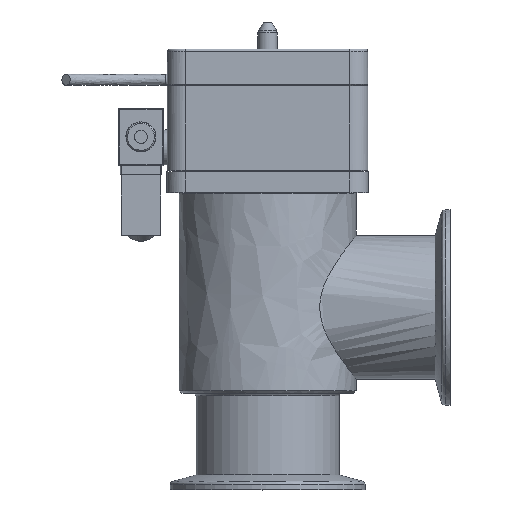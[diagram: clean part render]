
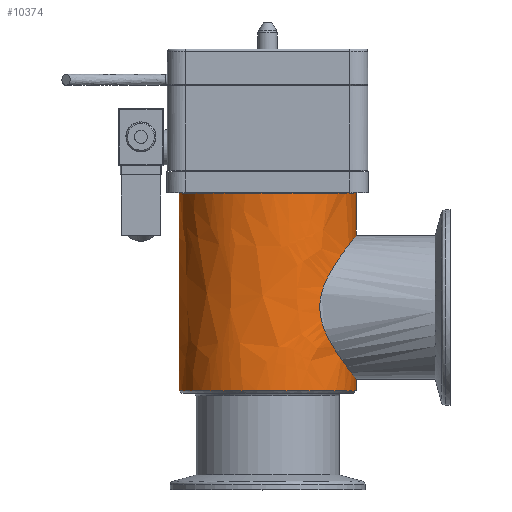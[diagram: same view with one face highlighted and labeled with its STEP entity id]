
A CAD part, top view. The second image highlights one B-rep face of the part: STEP entity #10374.
In plain terms, the highlighted free-form (B-spline) face has degree [2, 1] with [7, 2] control points.
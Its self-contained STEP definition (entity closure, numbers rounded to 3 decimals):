
#9781=CARTESIAN_POINT('V30',(38.,33.95,
   0.0));
#9782=VERTEX_POINT('V30',#9781);
#9790=CARTESIAN_POINT('E52',(38.,33.95,
   0.));
#9791=CARTESIAN_POINT('E52',(38.,33.95,
   58.803));
#9792=CARTESIAN_POINT('E52',(38.,-16.975,
   29.402));
#9793=CARTESIAN_POINT('E52',(38.,-67.9,
   0.));
#9794=CARTESIAN_POINT('E52',(38.,-16.975,
   -29.402));
#9795=CARTESIAN_POINT('E52',(38.,33.95,
   -58.803));
#9796=CARTESIAN_POINT('E52',(38.,33.95,
   0.));
#9804=(BOUNDED_CURVE()B_SPLINE_CURVE(2,(#9790,#9791,#9792,#9793,
   #9794,#9795,#9796),.CIRCULAR_ARC.,.T.,.U.)
   B_SPLINE_CURVE_WITH_KNOTS((3,2,2,3),(2.0,50.798,
   99.595,148.393),.UNSPECIFIED.)CURVE()
   GEOMETRIC_REPRESENTATION_ITEM()RATIONAL_B_SPLINE_CURVE((1.0,
   0.5,1.0,0.5,1.0,0.5,1.0)
   )REPRESENTATION_ITEM('E52'));
#9805=EDGE_CURVE('E52',#9782,#9782,#9804,.T.);
#10246=CARTESIAN_POINT('V2',(113.8,33.95,
   0.0));
#10247=VERTEX_POINT('V2',#10246);
#10255=CARTESIAN_POINT('E2',(113.8,33.95,
   0.0));
#10256=CARTESIAN_POINT('E2',(113.8,33.95,
   -58.803));
#10257=CARTESIAN_POINT('E2',(113.8,-16.975,
   -29.402));
#10258=CARTESIAN_POINT('E2',(113.8,-67.9,
   0.));
#10259=CARTESIAN_POINT('E2',(113.8,-16.975,
   29.402));
#10260=CARTESIAN_POINT('E2',(113.8,33.95,
   58.803));
#10261=CARTESIAN_POINT('E2',(113.8,33.95,
   0.0));
#10269=(BOUNDED_CURVE()B_SPLINE_CURVE(2,(#10255,#10256,#10257,
   #10258,#10259,#10260,#10261),.CIRCULAR_ARC.,.T.,.U.)
   B_SPLINE_CURVE_WITH_KNOTS((3,2,2,3),(0.0,1.531,
   3.063,4.594),.UNSPECIFIED.)CURVE()
   GEOMETRIC_REPRESENTATION_ITEM()RATIONAL_B_SPLINE_CURVE((1.0,
   0.5,1.0,0.5,1.0,0.5,1.0)
   )REPRESENTATION_ITEM('E2'));
#10270=EDGE_CURVE('E2',#10247,#10247,#10269,.T.);
#10275=CARTESIAN_POINT('F23',(37.,33.95,
   0.0));
#10276=CARTESIAN_POINT('F23',(37.,33.95,
   58.803));
#10277=CARTESIAN_POINT('F23',(37.,-16.975,
   29.402));
#10278=CARTESIAN_POINT('F23',(37.,-67.9,
   0.));
#10279=CARTESIAN_POINT('F23',(37.,-16.975,
   -29.402));
#10280=CARTESIAN_POINT('F23',(37.,33.95,
   -58.803));
#10281=CARTESIAN_POINT('F23',(37.,33.95,
   0.0));
#10282=CARTESIAN_POINT('F23',(113.8,33.95,
   0.0));
#10283=CARTESIAN_POINT('F23',(113.8,33.95,
   58.803));
#10284=CARTESIAN_POINT('F23',(113.8,
   -16.975,29.402));
#10285=CARTESIAN_POINT('F23',(113.8,
   -67.9,0.));
#10286=CARTESIAN_POINT('F23',(113.8,
   -16.975,-29.402));
#10287=CARTESIAN_POINT('F23',(113.8,33.95,
   -58.803));
#10288=CARTESIAN_POINT('F23',(113.8,33.95,
   0.0));
#10296=(BOUNDED_SURFACE()B_SPLINE_SURFACE(2,1,((#10275,#10282),(
   #10276,#10283),(#10277,#10284),(#10278,#10285),(#10279,
   #10286),(#10280,#10287),(#10281,#10288)),.CYLINDRICAL_SURF.,
   .T.,.F.,.U.)B_SPLINE_SURFACE_WITH_KNOTS((3,2,2,3),(2,2),(0.0,
   1.531,3.063,4.594),(0.0,1.0),
   .UNSPECIFIED.)GEOMETRIC_REPRESENTATION_ITEM()
   RATIONAL_B_SPLINE_SURFACE(((1.0,1.0),(0.5,
   0.5),(1.0,1.0),(0.5,
   0.5),(1.0,1.0),(0.5,
   0.5),(1.0,1.0)))REPRESENTATION_ITEM('F23')SURFACE(
   ));
#10297=ORIENTED_EDGE('E52',*,*,#9805,.F.);
#10298=CARTESIAN_POINT('V28',(45.,33.95,
   0.0));
#10299=VERTEX_POINT('V28',#10298);
#10300=CARTESIAN_POINT('E45',(45.,33.95,
   0.0));
#10301=CARTESIAN_POINT('E45',(38.,33.95,
   0.0));
#10302=B_SPLINE_CURVE_WITH_KNOTS('E45',1,(#10300,#10301),
   .POLYLINE_FORM.,.F.,.U.,(2,2),(0.896,
   0.987),.UNSPECIFIED.);
#10303=EDGE_CURVE('E45',#10299,#9782,#10302,.T.);
#10304=ORIENTED_EDGE('E45',*,*,#10303,.F.);
#10305=CARTESIAN_POINT('V27',(70.,22.97,
   25.0));
#10306=VERTEX_POINT('V27',#10305);
#10307=CARTESIAN_POINT('E44',(70.,22.97,
   25.0));
#10308=CARTESIAN_POINT('E44',(69.194,22.97,
   25.0));
#10309=CARTESIAN_POINT('E44',(68.392,23.012,
   24.961));
#10310=CARTESIAN_POINT('E44',(64.529,23.415,
   24.588));
#10311=CARTESIAN_POINT('E44',(61.719,24.315,
   23.745));
#10312=CARTESIAN_POINT('E44',(55.728,26.853,
   20.895));
#10313=CARTESIAN_POINT('E44',(52.376,28.886,
   18.277));
#10314=CARTESIAN_POINT('E44',(47.986,31.787,
   12.232));
#10315=CARTESIAN_POINT('E44',(46.451,32.891,
   9.169));
#10316=CARTESIAN_POINT('E44',(45.213,33.792,
   3.752));
#10317=CARTESIAN_POINT('E44',(45.,33.95,
   1.886));
#10318=CARTESIAN_POINT('E44',(45.,33.95,
   0.0));
#10319=B_SPLINE_CURVE_WITH_KNOTS('E44',3,(#10307,#10308,#10309,
   #10310,#10311,#10312,#10313,#10314,#10315,#10316,#10317,#10318),
   .UNSPECIFIED.,.F.,.U.,(4,2,2,2,2,4),(0.0,0.062,
   0.301,0.645,0.881,1.0),
   .UNSPECIFIED.);
#10320=EDGE_CURVE('E44',#10306,#10299,#10319,.T.);
#10321=ORIENTED_EDGE('E44',*,*,#10320,.F.);
#10322=CARTESIAN_POINT('V29',(95.,33.95,
   0.0));
#10323=VERTEX_POINT('V29',#10322);
#10324=CARTESIAN_POINT('E48',(95.,33.95,
   0.0));
#10325=CARTESIAN_POINT('E48',(95.,33.95,
   1.622));
#10326=CARTESIAN_POINT('E48',(94.842,33.833,
   3.23));
#10327=CARTESIAN_POINT('E48',(93.819,33.086,
   8.457));
#10328=CARTESIAN_POINT('E48',(92.366,32.035,
   11.572));
#10329=CARTESIAN_POINT('E48',(88.345,29.346,
   17.476));
#10330=CARTESIAN_POINT('E48',(85.368,27.496,
   20.048));
#10331=CARTESIAN_POINT('E48',(79.872,24.916,
   23.124));
#10332=CARTESIAN_POINT('E48',(77.277,23.941,
   24.082));
#10333=CARTESIAN_POINT('E48',(73.032,23.123,
   24.861));
#10334=CARTESIAN_POINT('E48',(71.528,22.97,
   25.0));
#10335=CARTESIAN_POINT('E48',(70.,22.97,
   25.0));
#10336=B_SPLINE_CURVE_WITH_KNOTS('E48',3,(#10324,#10325,#10326,
   #10327,#10328,#10329,#10330,#10331,#10332,#10333,#10334,#10335),
   .UNSPECIFIED.,.F.,.U.,(4,2,2,2,2,4),(0.0,0.099,
   0.33,0.643,0.876,1.0),
   .UNSPECIFIED.);
#10337=EDGE_CURVE('E48',#10323,#10306,#10336,.T.);
#10338=ORIENTED_EDGE('E48',*,*,#10337,.F.);
#10339=CARTESIAN_POINT('E47',(113.8,33.95,
   0.0));
#10340=CARTESIAN_POINT('E47',(95.,33.95,
   0.0));
#10341=B_SPLINE_CURVE_WITH_KNOTS('E47',1,(#10339,#10340),
   .POLYLINE_FORM.,.F.,.U.,(2,2),(0.0,0.245),
   .UNSPECIFIED.);
#10342=EDGE_CURVE('E47',#10247,#10323,#10341,.T.);
#10343=ORIENTED_EDGE('E47',*,*,#10342,.F.);
#10344=ORIENTED_EDGE('F1',*,*,#10270,.F.);
#10345=ORIENTED_EDGE('E47',*,*,#10342,.T.);
#10346=CARTESIAN_POINT('E46',(45.,33.95,
   0.0));
#10347=CARTESIAN_POINT('E46',(45.,33.95,
   -2.391));
#10348=CARTESIAN_POINT('E46',(45.342,33.696,
   -4.743));
#10349=CARTESIAN_POINT('E46',(46.468,32.882,
   -8.605));
#10350=CARTESIAN_POINT('E46',(47.088,32.438,
   -10.134));
#10351=CARTESIAN_POINT('E46',(49.802,30.554,
   -15.33));
#10352=CARTESIAN_POINT('E46',(52.539,28.745,
   -18.255));
#10353=CARTESIAN_POINT('E46',(58.41,25.609,
   -22.439));
#10354=CARTESIAN_POINT('E46',(61.776,24.142,
   -23.89));
#10355=CARTESIAN_POINT('E46',(66.996,23.11,
   -24.874));
#10356=CARTESIAN_POINT('E46',(68.653,22.947,
   -25.021));
#10357=CARTESIAN_POINT('E46',(71.941,22.996,
   -24.976));
#10358=CARTESIAN_POINT('E46',(73.509,23.188,
   -24.802));
#10359=CARTESIAN_POINT('E46',(77.872,24.123,
   -23.903));
#10360=CARTESIAN_POINT('E46',(80.535,25.184,
   -22.844));
#10361=CARTESIAN_POINT('E46',(85.904,27.818,
   -19.599));
#10362=CARTESIAN_POINT('E46',(88.695,29.572,
   -17.062));
#10363=CARTESIAN_POINT('E46',(92.37,32.043,
   -11.49));
#10364=CARTESIAN_POINT('E46',(93.647,32.963,
   -8.741));
#10365=CARTESIAN_POINT('E46',(94.787,33.792,
   -3.752));
#10366=CARTESIAN_POINT('E46',(95.,33.95,
   -1.886));
#10367=CARTESIAN_POINT('E46',(95.,33.95,
   0.0));
#10368=B_SPLINE_CURVE_WITH_KNOTS('E46',3,(#10346,#10347,#10348,
   #10349,#10350,#10351,#10352,#10353,#10354,#10355,#10356,#10357,
   #10358,#10359,#10360,#10361,#10362,#10363,#10364,#10365,#10366,
   #10367),.UNSPECIFIED.,.F.,.U.,(4,2,2,2,2,2,2,2,2,2,4),(0.0,
   0.082,0.14,0.292,
   0.442,0.51,0.574,
   0.693,0.84,0.942,1.0),
   .UNSPECIFIED.);
#10369=EDGE_CURVE('E46',#10299,#10323,#10368,.T.);
#10370=ORIENTED_EDGE('E46',*,*,#10369,.F.);
#10371=ORIENTED_EDGE('E45',*,*,#10303,.T.);
#10372=EDGE_LOOP('F23',(#10297,#10304,#10321,#10338,#10343,#10344,
   #10345,#10370,#10371));
#10373=FACE_OUTER_BOUND('F23',#10372,.F.);
#10374=ADVANCED_FACE('F23',(#10373),#10296,.T.);
